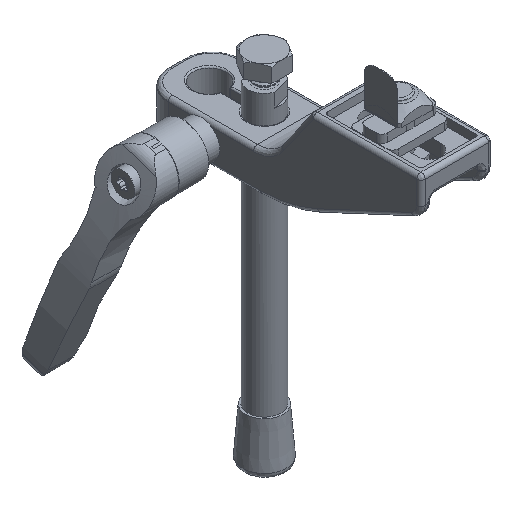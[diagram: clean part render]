
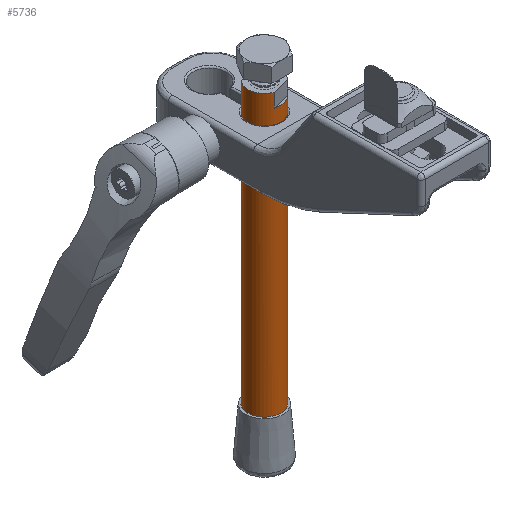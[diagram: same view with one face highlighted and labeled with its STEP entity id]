
A CAD part, isometric view. The second image highlights one B-rep face of the part: STEP entity #5736.
In plain terms, the highlighted cylindrical face has radius 6 mm (diameter 12 mm), a full revolution.
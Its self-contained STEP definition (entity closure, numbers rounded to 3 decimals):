
#76 = VERTEX_POINT ( 'NONE', #2950 ) ;
#313 = CARTESIAN_POINT ( 'NONE',  ( 0., 0., 0. ) ) ;
#821 = DIRECTION ( 'NONE',  ( 0., 0., -1. ) ) ;
#835 = VERTEX_POINT ( 'NONE', #12137 ) ;
#908 = EDGE_CURVE ( 'NONE', #1151, #14203, #3230, .T. ) ;
#1151 = VERTEX_POINT ( 'NONE', #12228 ) ;
#1673 = CARTESIAN_POINT ( 'NONE',  ( 5., 3.317, 120. ) ) ;
#1866 = DIRECTION ( 'NONE',  ( -1., 0., 0. ) ) ;
#1913 = CARTESIAN_POINT ( 'NONE',  ( 0., 0., 120. ) ) ;
#1978 = VECTOR ( 'NONE', #10427, 1000. ) ;
#2448 = VECTOR ( 'NONE', #6622, 1000. ) ;
#2468 = ORIENTED_EDGE ( 'NONE', *, *, #6927, .T. ) ;
#2508 = CARTESIAN_POINT ( 'NONE',  ( 5., -3.317, 115. ) ) ;
#2600 = DIRECTION ( 'NONE',  ( 0., 0., -1. ) ) ;
#2612 = EDGE_CURVE ( 'NONE', #10813, #76, #10290, .T. ) ;
#2854 = AXIS2_PLACEMENT_3D ( 'NONE', #1913, #821, #6289 ) ;
#2950 = CARTESIAN_POINT ( 'NONE',  ( -5., 3.317, 120. ) ) ;
#3014 = DIRECTION ( 'NONE',  ( -1., 0., 0. ) ) ;
#3162 = CYLINDRICAL_SURFACE ( 'NONE', #13216, 6. ) ;
#3222 = VERTEX_POINT ( 'NONE', #11128 ) ;
#3230 = CIRCLE ( 'NONE', #11846, 6. ) ;
#3350 = CARTESIAN_POINT ( 'NONE',  ( -5., 3.317, 115. ) ) ;
#3421 = EDGE_CURVE ( 'NONE', #3222, #10813, #4952, .T. ) ;
#3480 = LINE ( 'NONE', #6688, #2448 ) ;
#3619 = ORIENTED_EDGE ( 'NONE', *, *, #3421, .T. ) ;
#3991 = LINE ( 'NONE', #7495, #13239 ) ;
#4037 = EDGE_CURVE ( 'NONE', #11811, #3222, #3480, .T. ) ;
#4440 = ORIENTED_EDGE ( 'NONE', *, *, #4037, .T. ) ;
#4553 = EDGE_CURVE ( 'NONE', #835, #835, #12741, .T. ) ;
#4616 = LINE ( 'NONE', #11040, #9788 ) ;
#4819 = DIRECTION ( 'NONE',  ( 0., 0., -1. ) ) ;
#4934 = ORIENTED_EDGE ( 'NONE', *, *, #8384, .T. ) ;
#4952 = CIRCLE ( 'NONE', #6337, 6. ) ;
#5169 = CIRCLE ( 'NONE', #11683, 6. ) ;
#5213 = FACE_OUTER_BOUND ( 'NONE', #6096, .T. ) ;
#5736 = ADVANCED_FACE ( 'NONE', ( #5213, #7613 ), #3162, .T. ) ;
#6096 = EDGE_LOOP ( 'NONE', ( #4934, #14155, #2468, #6146, #4440, #3619, #13613, #13739 ) ) ;
#6146 = ORIENTED_EDGE ( 'NONE', *, *, #13421, .T. ) ;
#6289 = DIRECTION ( 'NONE',  ( -1., 0., 0. ) ) ;
#6292 = CARTESIAN_POINT ( 'NONE',  ( 0., 0., 120. ) ) ;
#6337 = AXIS2_PLACEMENT_3D ( 'NONE', #9555, #4819, #12640 ) ;
#6622 = DIRECTION ( 'NONE',  ( 0., 0., -1. ) ) ;
#6688 = CARTESIAN_POINT ( 'NONE',  ( -5., -3.317, 120. ) ) ;
#6927 = EDGE_CURVE ( 'NONE', #14203, #13331, #3991, .T. ) ;
#7495 = CARTESIAN_POINT ( 'NONE',  ( 5., -3.317, 120. ) ) ;
#7613 = FACE_OUTER_BOUND ( 'NONE', #8107, .T. ) ;
#8107 = EDGE_LOOP ( 'NONE', ( #8392 ) ) ;
#8129 = DIRECTION ( 'NONE',  ( 0., 0., 1. ) ) ;
#8205 = CIRCLE ( 'NONE', #2854, 6. ) ;
#8384 = EDGE_CURVE ( 'NONE', #9662, #1151, #4616, .T. ) ;
#8392 = ORIENTED_EDGE ( 'NONE', *, *, #4553, .T. ) ;
#8414 = CARTESIAN_POINT ( 'NONE',  ( -5., -3.317, 120. ) ) ;
#8430 = CARTESIAN_POINT ( 'NONE',  ( 0., 0., 120. ) ) ;
#9112 = CARTESIAN_POINT ( 'NONE',  ( -5., 3.317, 120. ) ) ;
#9429 = DIRECTION ( 'NONE',  ( -1., 0., 0. ) ) ;
#9555 = CARTESIAN_POINT ( 'NONE',  ( 0., 0., 115. ) ) ;
#9580 = DIRECTION ( 'NONE',  ( 0., 0., -1. ) ) ;
#9596 = DIRECTION ( 'NONE',  ( 0., 0., 1. ) ) ;
#9662 = VERTEX_POINT ( 'NONE', #1673 ) ;
#9788 = VECTOR ( 'NONE', #10968, 1000. ) ;
#10290 = LINE ( 'NONE', #9112, #1978 ) ;
#10427 = DIRECTION ( 'NONE',  ( 0., 0., 1. ) ) ;
#10596 = CARTESIAN_POINT ( 'NONE',  ( 5., -3.317, 120. ) ) ;
#10626 = DIRECTION ( 'NONE',  ( 0., 0., -1. ) ) ;
#10813 = VERTEX_POINT ( 'NONE', #3350 ) ;
#10968 = DIRECTION ( 'NONE',  ( 0., 0., -1. ) ) ;
#11040 = CARTESIAN_POINT ( 'NONE',  ( 5., 3.317, 120. ) ) ;
#11128 = CARTESIAN_POINT ( 'NONE',  ( -5., -3.317, 115. ) ) ;
#11336 = AXIS2_PLACEMENT_3D ( 'NONE', #313, #8129, #9429 ) ;
#11508 = DIRECTION ( 'NONE',  ( -1., 0., 0. ) ) ;
#11683 = AXIS2_PLACEMENT_3D ( 'NONE', #8430, #2600, #11508 ) ;
#11811 = VERTEX_POINT ( 'NONE', #8414 ) ;
#11846 = AXIS2_PLACEMENT_3D ( 'NONE', #13995, #10626, #1866 ) ;
#12137 = CARTESIAN_POINT ( 'NONE',  ( -6., 0., 0. ) ) ;
#12228 = CARTESIAN_POINT ( 'NONE',  ( 5., 3.317, 115. ) ) ;
#12640 = DIRECTION ( 'NONE',  ( -1., 0., 0. ) ) ;
#12741 = CIRCLE ( 'NONE', #11336, 6. ) ;
#13216 = AXIS2_PLACEMENT_3D ( 'NONE', #6292, #9580, #3014 ) ;
#13239 = VECTOR ( 'NONE', #9596, 1000. ) ;
#13331 = VERTEX_POINT ( 'NONE', #10596 ) ;
#13421 = EDGE_CURVE ( 'NONE', #13331, #11811, #8205, .T. ) ;
#13613 = ORIENTED_EDGE ( 'NONE', *, *, #2612, .T. ) ;
#13687 = EDGE_CURVE ( 'NONE', #76, #9662, #5169, .T. ) ;
#13739 = ORIENTED_EDGE ( 'NONE', *, *, #13687, .T. ) ;
#13995 = CARTESIAN_POINT ( 'NONE',  ( 0., 0., 115. ) ) ;
#14155 = ORIENTED_EDGE ( 'NONE', *, *, #908, .T. ) ;
#14203 = VERTEX_POINT ( 'NONE', #2508 ) ;
